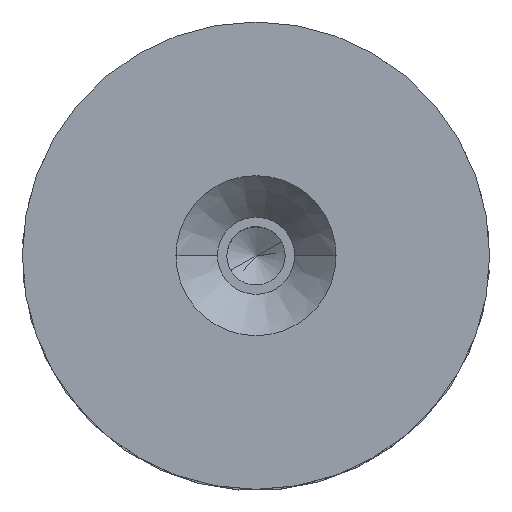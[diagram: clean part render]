
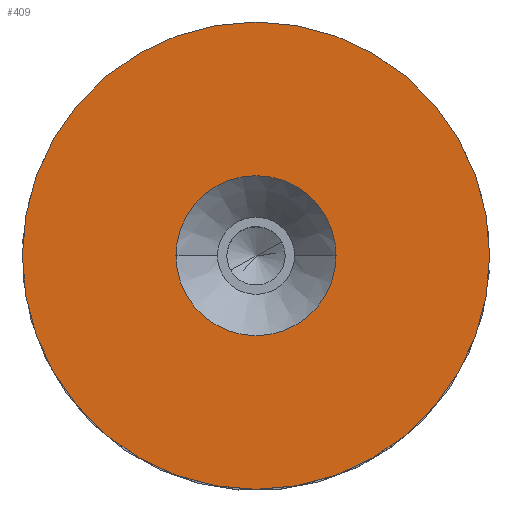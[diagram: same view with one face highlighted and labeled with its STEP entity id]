
A CAD part, top view. The second image highlights one B-rep face of the part: STEP entity #409.
In plain terms, the highlighted planar face has unit normal (0, 0, 1).
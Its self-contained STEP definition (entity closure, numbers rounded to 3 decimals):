
#34 = ORIENTED_EDGE ( 'NONE', *, *, #498, .T. ) ;
#67 = ORIENTED_EDGE ( 'NONE', *, *, #268, .T. ) ;
#83 = CARTESIAN_POINT ( 'NONE',  ( 20., 0., 5. ) ) ;
#123 = EDGE_LOOP ( 'NONE', ( #198, #34 ) ) ;
#137 = DIRECTION ( 'NONE',  ( 1., 0., 0. ) ) ;
#147 = DIRECTION ( 'NONE',  ( 0., 0., -1. ) ) ;
#148 = CARTESIAN_POINT ( 'NONE',  ( 0., 0., 5. ) ) ;
#150 = CARTESIAN_POINT ( 'NONE',  ( 6.85, 0., 5. ) ) ;
#187 = VERTEX_POINT ( 'NONE', #691 ) ;
#198 = ORIENTED_EDGE ( 'NONE', *, *, #473, .T. ) ;
#225 = AXIS2_PLACEMENT_3D ( 'NONE', #148, #147, #137 ) ;
#228 = CIRCLE ( 'NONE', #308, 6.85 ) ;
#255 = CARTESIAN_POINT ( 'NONE',  ( 0., 0., 5. ) ) ;
#258 = DIRECTION ( 'NONE',  ( 0., 0., 1. ) ) ;
#265 = DIRECTION ( 'NONE',  ( 1., 0., 0. ) ) ;
#268 = EDGE_CURVE ( 'NONE', #496, #664, #228, .T. ) ;
#281 = CIRCLE ( 'NONE', #658, 20. ) ;
#285 = CARTESIAN_POINT ( 'NONE',  ( 0., 0., 5. ) ) ;
#308 = AXIS2_PLACEMENT_3D ( 'NONE', #660, #667, #670 ) ;
#325 = FACE_OUTER_BOUND ( 'NONE', #123, .T. ) ;
#373 = PLANE ( 'NONE',  #679 ) ;
#375 = DIRECTION ( 'NONE',  ( 0., 0., 1. ) ) ;
#381 = DIRECTION ( 'NONE',  ( 1., 0., 0. ) ) ;
#409 = ADVANCED_FACE ( 'NONE', ( #823, #325 ), #373, .T. ) ;
#424 = DIRECTION ( 'NONE',  ( 0., 0., 1. ) ) ;
#426 = DIRECTION ( 'NONE',  ( 1., 0., 0. ) ) ;
#433 = CIRCLE ( 'NONE', #225, 6.85 ) ;
#473 = EDGE_CURVE ( 'NONE', #187, #747, #281, .T. ) ;
#496 = VERTEX_POINT ( 'NONE', #849 ) ;
#498 = EDGE_CURVE ( 'NONE', #747, #187, #640, .T. ) ;
#522 = CARTESIAN_POINT ( 'NONE',  ( 0., 0., 5. ) ) ;
#640 = CIRCLE ( 'NONE', #721, 20. ) ;
#641 = EDGE_LOOP ( 'NONE', ( #741, #67 ) ) ;
#652 = EDGE_CURVE ( 'NONE', #664, #496, #433, .T. ) ;
#658 = AXIS2_PLACEMENT_3D ( 'NONE', #255, #258, #265 ) ;
#660 = CARTESIAN_POINT ( 'NONE',  ( 0., 0., 5. ) ) ;
#664 = VERTEX_POINT ( 'NONE', #150 ) ;
#667 = DIRECTION ( 'NONE',  ( 0., 0., -1. ) ) ;
#670 = DIRECTION ( 'NONE',  ( 1., 0., 0. ) ) ;
#679 = AXIS2_PLACEMENT_3D ( 'NONE', #522, #375, #381 ) ;
#691 = CARTESIAN_POINT ( 'NONE',  ( -20., 0., 5. ) ) ;
#721 = AXIS2_PLACEMENT_3D ( 'NONE', #285, #424, #426 ) ;
#741 = ORIENTED_EDGE ( 'NONE', *, *, #652, .T. ) ;
#747 = VERTEX_POINT ( 'NONE', #83 ) ;
#823 = FACE_BOUND ( 'NONE', #641, .T. ) ;
#849 = CARTESIAN_POINT ( 'NONE',  ( -6.85, 0., 5. ) ) ;
